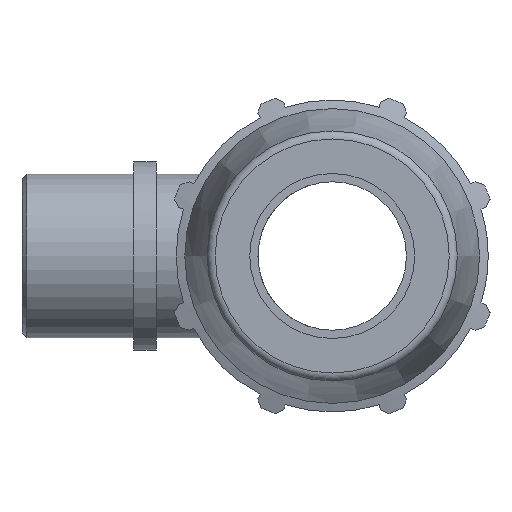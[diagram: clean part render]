
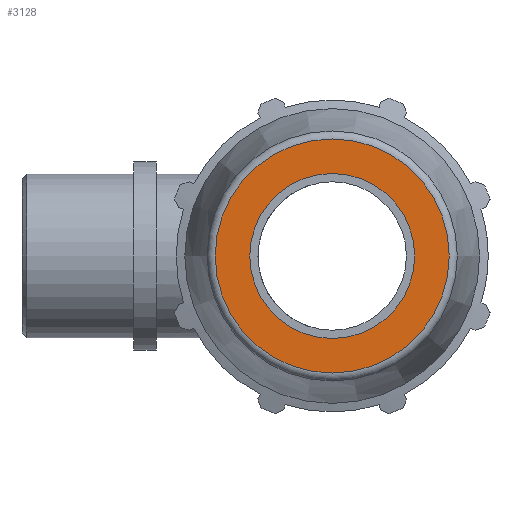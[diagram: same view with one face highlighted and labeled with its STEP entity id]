
A CAD part, left-side view. The second image highlights one B-rep face of the part: STEP entity #3128.
In plain terms, the highlighted planar face has unit normal (-1, 0, 0).
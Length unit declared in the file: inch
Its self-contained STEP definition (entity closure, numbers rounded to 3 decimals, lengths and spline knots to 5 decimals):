
#25=FACE_BOUND('',#612,.T.);
#75=PLANE('',#3381);
#252=CIRCLE('',#3374,0.74303);
#253=CIRCLE('',#3375,0.74303);
#258=CIRCLE('',#3382,0.52362);
#259=CIRCLE('',#3383,0.52362);
#449=FACE_OUTER_BOUND('',#611,.T.);
#611=EDGE_LOOP('',(#2341,#2342));
#612=EDGE_LOOP('',(#2343,#2344));
#1297=VERTEX_POINT('',#4999);
#1298=VERTEX_POINT('',#5000);
#1302=VERTEX_POINT('',#5013);
#1303=VERTEX_POINT('',#5014);
#1678=EDGE_CURVE('',#1297,#1298,#252,.T.);
#1679=EDGE_CURVE('',#1298,#1297,#253,.T.);
#1685=EDGE_CURVE('',#1302,#1303,#258,.T.);
#1686=EDGE_CURVE('',#1303,#1302,#259,.T.);
#2341=ORIENTED_EDGE('',*,*,#1678,.T.);
#2342=ORIENTED_EDGE('',*,*,#1679,.T.);
#2343=ORIENTED_EDGE('',*,*,#1685,.T.);
#2344=ORIENTED_EDGE('',*,*,#1686,.T.);
#3128=ADVANCED_FACE('',(#449,#25),#75,.F.);
#3374=AXIS2_PLACEMENT_3D('',#5001,#3942,#3943);
#3375=AXIS2_PLACEMENT_3D('',#5002,#3944,#3945);
#3381=AXIS2_PLACEMENT_3D('',#5012,#3957,#3958);
#3382=AXIS2_PLACEMENT_3D('',#5015,#3959,#3960);
#3383=AXIS2_PLACEMENT_3D('',#5016,#3961,#3962);
#3942=DIRECTION('center_axis',(-1.,0.,0.));
#3943=DIRECTION('ref_axis',(0.,-1.,0.));
#3944=DIRECTION('center_axis',(-1.,0.,0.));
#3945=DIRECTION('ref_axis',(0.,-1.,0.));
#3957=DIRECTION('center_axis',(1.,0.,0.));
#3958=DIRECTION('ref_axis',(0.,0.,-1.));
#3959=DIRECTION('center_axis',(1.,0.,0.));
#3960=DIRECTION('ref_axis',(0.,0.,-1.));
#3961=DIRECTION('center_axis',(1.,0.,0.));
#3962=DIRECTION('ref_axis',(0.,0.,-1.));
#4999=CARTESIAN_POINT('',(-2.955,0.74303,0.));
#5000=CARTESIAN_POINT('',(-2.955,0.,0.74303));
#5001=CARTESIAN_POINT('Origin',(-2.955,0.,0.));
#5002=CARTESIAN_POINT('Origin',(-2.955,0.,0.));
#5012=CARTESIAN_POINT('Origin',(-2.955,0.52362,0.));
#5013=CARTESIAN_POINT('',(-2.955,0.52362,0.));
#5014=CARTESIAN_POINT('',(-2.955,-0.52362,0.));
#5015=CARTESIAN_POINT('Origin',(-2.955,0.,0.));
#5016=CARTESIAN_POINT('Origin',(-2.955,0.,0.));
